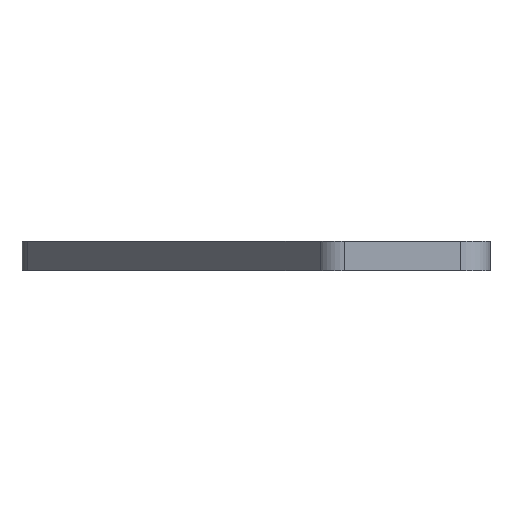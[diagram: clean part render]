
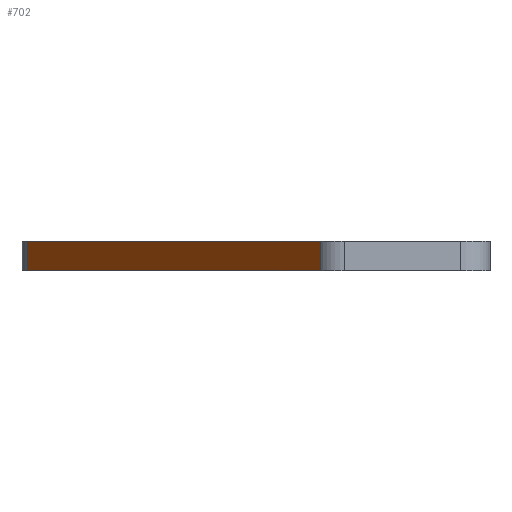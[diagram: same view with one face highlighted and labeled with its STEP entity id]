
A CAD part, left-side view. The second image highlights one B-rep face of the part: STEP entity #702.
In plain terms, the highlighted planar face has unit normal (-0.574, 0.819, 0).
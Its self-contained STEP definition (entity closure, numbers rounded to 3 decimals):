
#10 = EDGE_CURVE ( 'NONE', #274, #679, #246, .T. ) ;
#30 = DIRECTION ( 'NONE',  ( 0., 0., -1. ) ) ;
#40 = DIRECTION ( 'NONE',  ( -0.819, -0.574, 0. ) ) ;
#44 = CARTESIAN_POINT ( 'NONE',  ( -3.083, 6.138, 2. ) ) ;
#59 = CARTESIAN_POINT ( 'NONE',  ( -31.605, -13.833, 0. ) ) ;
#62 = DIRECTION ( 'NONE',  ( 0.819, 0.574, 0. ) ) ;
#102 = EDGE_CURVE ( 'NONE', #696, #124, #852, .T. ) ;
#124 = VERTEX_POINT ( 'NONE', #59 ) ;
#136 = VECTOR ( 'NONE', #577, 1000. ) ;
#146 = EDGE_CURVE ( 'NONE', #679, #124, #206, .T. ) ;
#169 = EDGE_CURVE ( 'NONE', #274, #696, #293, .T. ) ;
#174 = AXIS2_PLACEMENT_3D ( 'NONE', #294, #944, #62 ) ;
#181 = CARTESIAN_POINT ( 'NONE',  ( -31.605, -13.833, 2. ) ) ;
#202 = CARTESIAN_POINT ( 'NONE',  ( -3.083, 6.138, 2. ) ) ;
#206 = LINE ( 'NONE', #804, #136 ) ;
#246 = LINE ( 'NONE', #778, #430 ) ;
#274 = VERTEX_POINT ( 'NONE', #44 ) ;
#293 = LINE ( 'NONE', #202, #492 ) ;
#294 = CARTESIAN_POINT ( 'NONE',  ( -3.083, 6.138, 2. ) ) ;
#406 = ORIENTED_EDGE ( 'NONE', *, *, #169, .F. ) ;
#408 = DIRECTION ( 'NONE',  ( 0., 0., -1. ) ) ;
#430 = VECTOR ( 'NONE', #408, 1000. ) ;
#451 = EDGE_LOOP ( 'NONE', ( #659, #689, #406, #932 ) ) ;
#492 = VECTOR ( 'NONE', #40, 1000. ) ;
#577 = DIRECTION ( 'NONE',  ( -0.819, -0.574, 0. ) ) ;
#659 = ORIENTED_EDGE ( 'NONE', *, *, #146, .T. ) ;
#679 = VERTEX_POINT ( 'NONE', #746 ) ;
#689 = ORIENTED_EDGE ( 'NONE', *, *, #102, .F. ) ;
#696 = VERTEX_POINT ( 'NONE', #939 ) ;
#702 = ADVANCED_FACE ( 'NONE', ( #961 ), #872, .F. ) ;
#746 = CARTESIAN_POINT ( 'NONE',  ( -3.083, 6.138, 0. ) ) ;
#778 = CARTESIAN_POINT ( 'NONE',  ( -3.083, 6.138, 2. ) ) ;
#804 = CARTESIAN_POINT ( 'NONE',  ( -3.083, 6.138, 0. ) ) ;
#821 = VECTOR ( 'NONE', #30, 1000. ) ;
#852 = LINE ( 'NONE', #181, #821 ) ;
#872 = PLANE ( 'NONE',  #174 ) ;
#932 = ORIENTED_EDGE ( 'NONE', *, *, #10, .T. ) ;
#939 = CARTESIAN_POINT ( 'NONE',  ( -31.605, -13.833, 2. ) ) ;
#944 = DIRECTION ( 'NONE',  ( 0.574, -0.819, 0. ) ) ;
#961 = FACE_OUTER_BOUND ( 'NONE', #451, .T. ) ;
